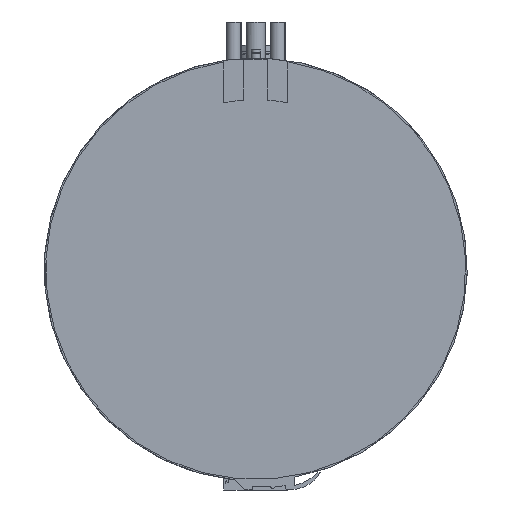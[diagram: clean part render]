
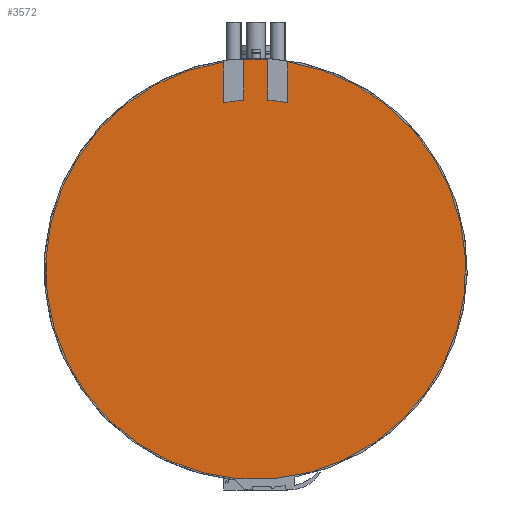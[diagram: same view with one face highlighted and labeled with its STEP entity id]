
A CAD part, front view. The second image highlights one B-rep face of the part: STEP entity #3572.
In plain terms, the highlighted planar face has unit normal (0, -1, 0).
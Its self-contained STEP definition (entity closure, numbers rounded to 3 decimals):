
#122=PLANE('',#3937);
#281=FACE_OUTER_BOUND('',#478,.T.);
#478=EDGE_LOOP('',(#2793,#2794,#2795,#2796,#2797,#2798,#2799,#2800));
#710=CIRCLE('',#3936,250.);
#711=CIRCLE('',#3938,250.);
#712=CIRCLE('',#3939,309.5);
#713=CIRCLE('',#3940,309.5);
#919=LINE('',#6199,#1190);
#925=LINE('',#6235,#1196);
#930=LINE('',#6275,#1201);
#931=LINE('',#6278,#1202);
#1190=VECTOR('',#4759,10.);
#1196=VECTOR('',#4769,10.);
#1201=VECTOR('',#4788,10.);
#1202=VECTOR('',#4791,10.);
#1572=VERTEX_POINT('',#6196);
#1573=VERTEX_POINT('',#6198);
#1578=VERTEX_POINT('',#6232);
#1579=VERTEX_POINT('',#6234);
#1583=VERTEX_POINT('',#6267);
#1584=VERTEX_POINT('',#6271);
#1585=VERTEX_POINT('',#6274);
#1586=VERTEX_POINT('',#6276);
#2016=EDGE_CURVE('',#1573,#1572,#919,.T.);
#2023=EDGE_CURVE('',#1579,#1578,#925,.T.);
#2030=EDGE_CURVE('',#1578,#1583,#710,.T.);
#2031=EDGE_CURVE('',#1584,#1573,#711,.T.);
#2032=EDGE_CURVE('',#1572,#1579,#712,.T.);
#2033=EDGE_CURVE('',#1583,#1585,#930,.T.);
#2034=EDGE_CURVE('',#1585,#1586,#713,.T.);
#2035=EDGE_CURVE('',#1586,#1584,#931,.T.);
#2793=ORIENTED_EDGE('',*,*,#2031,.T.);
#2794=ORIENTED_EDGE('',*,*,#2016,.T.);
#2795=ORIENTED_EDGE('',*,*,#2032,.T.);
#2796=ORIENTED_EDGE('',*,*,#2023,.T.);
#2797=ORIENTED_EDGE('',*,*,#2030,.T.);
#2798=ORIENTED_EDGE('',*,*,#2033,.T.);
#2799=ORIENTED_EDGE('',*,*,#2034,.T.);
#2800=ORIENTED_EDGE('',*,*,#2035,.T.);
#3572=ADVANCED_FACE('',(#281),#122,.T.);
#3936=AXIS2_PLACEMENT_3D('',#6269,#4780,#4781);
#3937=AXIS2_PLACEMENT_3D('',#6270,#4782,#4783);
#3938=AXIS2_PLACEMENT_3D('',#6272,#4784,#4785);
#3939=AXIS2_PLACEMENT_3D('',#6273,#4786,#4787);
#3940=AXIS2_PLACEMENT_3D('',#6277,#4789,#4790);
#4759=DIRECTION('',(0.,0.,1.));
#4769=DIRECTION('',(0.,0.,-1.));
#4780=DIRECTION('center_axis',(0.,-1.,0.));
#4781=DIRECTION('ref_axis',(0.,0.,1.));
#4782=DIRECTION('center_axis',(0.,-1.,0.));
#4783=DIRECTION('ref_axis',(1.,0.,0.));
#4784=DIRECTION('center_axis',(0.,-1.,0.));
#4785=DIRECTION('ref_axis',(0.,0.,1.));
#4786=DIRECTION('center_axis',(0.,-1.,0.));
#4787=DIRECTION('ref_axis',(0.,0.,1.));
#4788=DIRECTION('',(0.,0.,1.));
#4789=DIRECTION('center_axis',(0.,-1.,0.));
#4790=DIRECTION('ref_axis',(0.,0.,1.));
#4791=DIRECTION('',(0.,0.,-1.));
#6196=CARTESIAN_POINT('',(17.5,0.,309.005));
#6198=CARTESIAN_POINT('',(17.5,0.,249.387));
#6199=CARTESIAN_POINT('',(17.5,0.,0.));
#6232=CARTESIAN_POINT('',(-17.5,0.,249.387));
#6234=CARTESIAN_POINT('',(-17.5,0.,309.005));
#6235=CARTESIAN_POINT('',(-17.5,0.,155.));
#6267=CARTESIAN_POINT('',(-47.5,0.,245.446));
#6269=CARTESIAN_POINT('Origin',(0.,0.,
0.));
#6270=CARTESIAN_POINT('Origin',(0.,0.,
0.));
#6271=CARTESIAN_POINT('',(47.5,0.,245.446));
#6272=CARTESIAN_POINT('Origin',(0.,0.,
0.));
#6273=CARTESIAN_POINT('Origin',(0.,0.,
0.));
#6274=CARTESIAN_POINT('',(-47.5,0.,305.833));
#6275=CARTESIAN_POINT('',(-47.5,0.,0.));
#6276=CARTESIAN_POINT('',(47.5,0.,305.833));
#6277=CARTESIAN_POINT('Origin',(0.,0.,
0.));
#6278=CARTESIAN_POINT('',(47.5,0.,155.));
